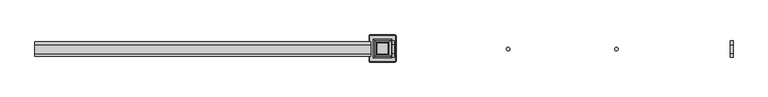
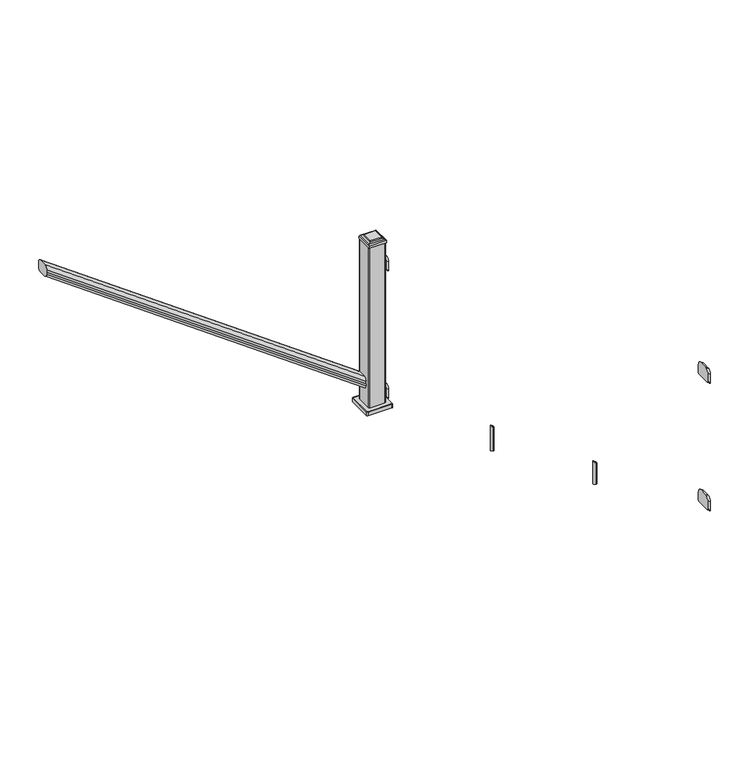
"""IFC4 building model written with IfcOpenShell, lengths in millimetres: railing geometry, NewTechWood - Westminister Gray."""

from ifc_helpers import new_model, si_unit, point, frame, frame_2d, origin, place, context, project, spatial, polyline, circle_curve, ellipse_curve, trimmed, segment, composite_curve, outline, extrude, faceted_brep, source, transform, mapped, element, save
from ifc_brep_helpers import plane_surface, cylinder_surface, revolved_surface, advanced_brep


def railing_da19b3df(model_context):
    return source(origin(), model_context, "Body", "SolidModel", [
        advanced_brep(
        [(-13507.1266255, 7760.3442795, 1712.3341733), (-13507.1266255, 7804.7090559, 1712.3341733), (-13507.1266255, 7821.448215, 1732.9511921), (-13507.1266255, 7821.448215, 1744.7413637), (-13507.1266255, 7821.9367338, 1761.4764927), (-13507.1266255, 7806.3681285, 1780.6517825), (-13507.1266255, 7758.6852069, 1780.6517825), (-13507.1266255, 7743.1166016, 1761.4764927), (-13507.1266255, 7743.6051203, 1744.7413637), (-13507.1266255, 7743.6051203, 1732.9511921), (-15306.1266255, 7804.7090559, 3005.8590513), (-15306.1266255, 7760.3442795, 3005.8590513), (-15306.1266255, 7743.6051203, 3026.4760701), (-15306.1266255, 7743.6051203, 3038.2662417), (-15306.1266255, 7743.1166016, 3055.0013707), (-15306.1266255, 7758.6852069, 3074.1766606), (-15306.1266255, 7806.3681285, 3074.1766606), (-15306.1266255, 7821.9367338, 3055.0013707), (-15306.1266255, 7821.448215, 3038.2662417), (-15306.1266255, 7821.448215, 3026.4760701)],
        [
            (0, 1),
            (1, 2, ellipse_curve(frame((-13507.1266255, 7804.7090559, 1732.9511921), z_axis=(1.0, 0.0, 0.0), x_axis=(0.0, 0.0, -1.0)), 20.6170188, 16.7391591)),
            (2, 3),
            (3, 4, ellipse_curve(frame((-13507.1266255, 7834.3611716, 1752.5479207), z_axis=(-1.0, 0.0, 0.0), x_axis=(0.0, 0.0, 1.0)), 17.7170259, 14.3846265)),
            (4, 5, ellipse_curve(frame((-13507.1266255, 7806.3681285, 1761.4764927), z_axis=(1.0, 0.0, 0.0), x_axis=(0.0, 0.0, -1.0)), 19.1752899, 15.5686053)),
            (5, 6),
            (6, 7, ellipse_curve(frame((-13507.1266255, 7758.6852069, 1761.4764927), z_axis=(1.0, 0.0, 0.0), x_axis=(0.0, 0.0, -1.0)), 19.1752899, 15.5686053)),
            (7, 8, ellipse_curve(frame((-13507.1266255, 7730.6921638, 1752.5479207), z_axis=(-1.0, 0.0, 0.0), x_axis=(0.0, 0.0, 1.0)), 17.7170259, 14.3846265)),
            (8, 9),
            (9, 0, ellipse_curve(frame((-13507.1266255, 7760.3442795, 1732.9511921), z_axis=(1.0, 0.0, 0.0), x_axis=(0.0, 0.0, -1.0)), 20.6170188, 16.7391591)),
            (10, 11),
            (11, 12, ellipse_curve(frame((-15306.1266255, 7760.3442795, 3026.4760701), z_axis=(-1.0, 0.0, 0.0), x_axis=(0.0, 0.0, -1.0)), 20.6170188, 16.7391591)),
            (12, 13),
            (13, 14, ellipse_curve(frame((-15306.1266255, 7730.6921638, 3046.0727988), z_axis=(1.0, 0.0, 0.0), x_axis=(0.0, 0.0, 1.0)), 17.7170259, 14.3846265)),
            (14, 15, ellipse_curve(frame((-15306.1266255, 7758.6852069, 3055.0013707), z_axis=(-1.0, 0.0, 0.0), x_axis=(0.0, 0.0, -1.0)), 19.1752899, 15.5686053)),
            (15, 16),
            (16, 17, ellipse_curve(frame((-15306.1266255, 7806.3681285, 3055.0013707), z_axis=(-1.0, 0.0, 0.0), x_axis=(0.0, 0.0, -1.0)), 19.1752899, 15.5686053)),
            (17, 18, ellipse_curve(frame((-15306.1266255, 7834.3611716, 3046.0727988), z_axis=(1.0, 0.0, 0.0), x_axis=(0.0, 0.0, 1.0)), 17.7170259, 14.3846265)),
            (18, 19),
            (19, 10, ellipse_curve(frame((-15306.1266255, 7804.7090559, 3026.4760701), z_axis=(-1.0, 0.0, 0.0), x_axis=(0.0, 0.0, -1.0)), 20.6170188, 16.7391591)),
            (0, 11),
            (10, 1),
            (19, 2),
            (18, 3),
            (17, 4),
            (16, 5),
            (15, 6),
            (14, 7),
            (13, 8),
            (12, 9),
        ],
        [
            plane_surface(frame((-13507.1266255, 7656.171935, 2628.6593724), z_axis=(1.0, 0.0, 0.0), x_axis=(0.0, 1.0, 0.0))),
            plane_surface(frame((-15306.1266255, 7656.171935, 2990.7512981), z_axis=(-1.0, 0.0, 0.0), x_axis=(0.0, 1.0, 0.0))),
            plane_surface(frame((-13482.6073247, 7760.3442795, 1694.704198), z_axis=(-0.5837829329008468, 0.0, -0.8119097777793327), x_axis=(-0.8119097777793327, 0.0, 0.5837829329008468))),
            cylinder_surface(frame((-13472.8352893, 7804.7090559, 1708.294885), z_axis=(0.8119097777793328, 0.0, -0.5837829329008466), x_axis=(-0.5837829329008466, 0.0, -0.8119097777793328)), 16.7391591),
            plane_surface(frame((-13472.8352893, 7821.448215, 1708.294885), z_axis=(0.0, 1.0000000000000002, 0.0), x_axis=(-0.8119097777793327, 0.0, 0.5837829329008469))),
            revolved_surface(polyline([(-15322.921624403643, 7834.3611716, 3040.431786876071), (-13507.126625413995, 7834.3611716, 1734.8308949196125)]), (-13463.54685, 7834.3611716, 1721.2129993), (-0.8119097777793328, 0.0, 0.5837829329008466)),
            cylinder_surface(frame((-13459.3148938, 7806.3681285, 1727.0986914), z_axis=(0.8119097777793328, 0.0, -0.5837829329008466), x_axis=(-0.5837829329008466, 0.0, -0.8119097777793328)), 15.5686053),
            plane_surface(frame((-13450.2262077, 7806.3681285, 1739.7389943), z_axis=(0.5837829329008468, 0.0, 0.8119097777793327), x_axis=(-0.8119097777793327, 0.0, 0.5837829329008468))),
            cylinder_surface(frame((-13459.3148938, 7758.6852069, 1727.0986914), z_axis=(0.8119097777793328, 0.0, -0.5837829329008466), x_axis=(-0.5837829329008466, 0.0, -0.8119097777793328)), 15.5686053),
            revolved_surface(polyline([(-15322.921624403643, 7730.6921638, 3040.431786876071), (-13507.126625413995, 7730.6921638, 1734.8308949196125)]), (-13463.54685, 7730.6921638, 1721.2129993), (-0.8119097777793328, 0.0, 0.5837829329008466)),
            plane_surface(frame((-13467.2469947, 7743.6051203, 1716.0669365), z_axis=(0.0, -1.0, 0.0), x_axis=(-0.8119097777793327, 0.0, 0.5837829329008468))),
            cylinder_surface(frame((-13472.8352893, 7760.3442795, 1708.294885), z_axis=(0.8119097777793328, 0.0, -0.5837829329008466), x_axis=(-0.5837829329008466, 0.0, -0.8119097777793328)), 16.7391591),
        ],
        [
            (0, [[1, 2, 3, 4, 5, 6, 7, 8, 9, 10]]),
            (1, [[11, 12, 13, 14, 15, 16, 17, 18, 19, 20]]),
            (2, [[21, -11, 22, -1]]),
            (3, [[-22, -20, 23, -2]]),
            (4, [[-23, -19, 24, -3]]),
            (5, [[-24, -18, 25, -4]]),
            (6, [[-25, -17, 26, -5]]),
            (7, [[-26, -16, 27, -6]]),
            (8, [[-27, -15, 28, -7]]),
            (9, [[-28, -14, 29, -8]]),
            (10, [[-29, -13, 30, -9]]),
            (11, [[-21, -10, -30, -12]]),
        ],
    ),
        advanced_brep(
        [(-13512.2392817, 7856.3863921, 1596.5), (-13515.3988491, 7853.2268247, 1596.5), (-13515.3988491, 7718.5468247, 1596.5), (-13512.2392817, 7715.3872573, 1596.5), (-13377.5592817, 7715.3872573, 1596.5), (-13374.3997143, 7718.5468247, 1596.5), (-13374.3997143, 7853.2268247, 1596.5), (-13377.5592817, 7856.3863921, 1596.5), (-13372.3992817, 7718.5468247, 1574.0), (-13377.5592817, 7713.3868247, 1574.0), (-13512.2392817, 7713.3868247, 1574.0), (-13517.3992817, 7718.5468247, 1574.0), (-13517.3992817, 7853.2268247, 1574.0), (-13512.2392817, 7858.3868247, 1574.0), (-13377.5592817, 7858.3868247, 1574.0), (-13372.3992817, 7853.2268247, 1574.0), (-13372.3992817, 7853.2268247, 1594.4995674), (-13372.3992817, 7718.5468247, 1594.4995674), (-13377.5592817, 7858.3868247, 1594.499569), (-13512.2392817, 7858.3868247, 1594.499569), (-13517.3992817, 7853.2268247, 1594.4995691), (-13517.3992817, 7718.5468247, 1594.4995674), (-13512.2392817, 7713.3868247, 1594.4995692), (-13377.5592817, 7713.3868247, 1594.4995674)],
        [
            (0, 1, circle_curve(frame((-13512.2392817, 7853.2268247, 1596.5), z_axis=(0.0, 0.0, 1.0), x_axis=(0.0, 1.0, 0.0)), 3.1595674)),
            (1, 2),
            (2, 3, circle_curve(frame((-13512.2392817, 7718.5468247, 1596.5), z_axis=(0.0, 0.0, 1.0), x_axis=(-1.0, 0.0, 0.0)), 3.1595674)),
            (3, 4),
            (4, 5, circle_curve(frame((-13377.5592817, 7718.5468247, 1596.5), z_axis=(0.0, 0.0, 1.0), x_axis=(0.0, -1.0, 0.0)), 3.1595674)),
            (5, 6),
            (6, 7, circle_curve(frame((-13377.5592817, 7853.2268247, 1596.5), z_axis=(0.0, 0.0, 1.0), x_axis=(1.0, 0.0, 0.0)), 3.1595674)),
            (7, 0),
            (8, 9, circle_curve(frame((-13377.5592817, 7718.5468247, 1574.0), z_axis=(0.0, 0.0, -1.0), x_axis=(0.0, -1.0, 0.0)), 5.16)),
            (9, 10),
            (10, 11, circle_curve(frame((-13512.2392817, 7718.5468247, 1574.0), z_axis=(0.0, 0.0, -1.0), x_axis=(0.0, -1.0, 0.0)), 5.16)),
            (11, 12),
            (12, 13, circle_curve(frame((-13512.2392817, 7853.2268247, 1574.0), z_axis=(0.0, 0.0, -1.0), x_axis=(0.0, -1.0, 0.0)), 5.16)),
            (13, 14),
            (14, 15, circle_curve(frame((-13377.5592817, 7853.2268247, 1574.0), z_axis=(0.0, 0.0, -1.0), x_axis=(0.0, -1.0, 0.0)), 5.16)),
            (15, 8),
            (15, 16),
            (16, 17),
            (17, 8),
            (14, 18),
            (18, 16, circle_curve(frame((-13377.5592817, 7853.2268247, 1594.4995674), z_axis=(0.0, 0.0, -1.0), x_axis=(0.0, -1.0, 0.0)), 5.16)),
            (13, 19),
            (19, 18),
            (12, 20),
            (20, 19, circle_curve(frame((-13512.2392817, 7853.2268247, 1594.4995674), z_axis=(0.0, 0.0, -1.0), x_axis=(0.0, -1.0, 0.0)), 5.16)),
            (11, 21),
            (21, 20),
            (10, 22),
            (22, 21, circle_curve(frame((-13512.2392817, 7718.5468247, 1594.4995674), z_axis=(0.0, 0.0, -1.0), x_axis=(0.0, -1.0, 0.0)), 5.16)),
            (9, 23),
            (23, 22),
            (17, 23, circle_curve(frame((-13377.5592817, 7718.5468247, 1594.4995674), z_axis=(0.0, 0.0, -1.0), x_axis=(0.0, -1.0, 0.0)), 5.16)),
            (20, 1, circle_curve(frame((-13515.3988491, 7853.2268247, 1594.4995674), z_axis=(0.0, 1.0, 0.0), x_axis=(1.0, 0.0, 0.0)), 2.0004326)),
            (0, 19, circle_curve(frame((-13512.2392817, 7856.3863921, 1594.4995674), z_axis=(-1.0, 0.0, 0.0), x_axis=(0.0, -1.0, 0.0)), 2.0004326)),
            (21, 2, circle_curve(frame((-13515.3988491, 7718.5468247, 1594.4995674), z_axis=(0.0, 1.0, 0.0), x_axis=(1.0, 0.0, 0.0)), 2.0004326)),
            (22, 3, circle_curve(frame((-13512.2392817, 7715.3872573, 1594.4995674), z_axis=(-1.0, 0.0, 0.0), x_axis=(0.0, 1.0, 0.0)), 2.0004326)),
            (23, 4, circle_curve(frame((-13377.5592817, 7715.3872573, 1594.4995674), z_axis=(-1.0, 0.0, 0.0), x_axis=(0.0, 1.0, 0.0)), 2.0004326)),
            (17, 5, circle_curve(frame((-13374.3997143, 7718.5468247, 1594.4995674), z_axis=(0.0, -1.0, 0.0), x_axis=(-1.0, 0.0, 0.0)), 2.0004326)),
            (16, 6, circle_curve(frame((-13374.3997143, 7853.2268247, 1594.4995674), z_axis=(0.0, -1.0, 0.0), x_axis=(-1.0, 0.0, 0.0)), 2.0004326)),
            (18, 7, circle_curve(frame((-13377.5592817, 7856.3863921, 1594.4995674), z_axis=(1.0, 0.0, 0.0), x_axis=(0.0, -1.0, 0.0)), 2.0004326)),
        ],
        [
            plane_surface(frame((-13372.3992817, 7745.3228185, 1596.5), z_axis=(0.0, 0.0, 1.0), x_axis=(0.0, 1.0, 0.0))),
            plane_surface(frame((-13372.3992817, 7745.3228185, 1574.0), z_axis=(0.0, 0.0, -1.0), x_axis=(0.0, -1.0, 0.0))),
            plane_surface(frame((-13372.3992817, 7718.5468247, 1596.5), z_axis=(1.0, 0.0, 0.0), x_axis=(0.0, 0.0, -1.0))),
            cylinder_surface(frame((-13377.5592817, 7853.2268247, 1574.0), z_axis=(0.0, 0.0, 1.0), x_axis=(0.0, -1.0, 0.0)), 5.16),
            plane_surface(frame((-13377.5592817, 7858.3868247, 1596.5), z_axis=(0.0, 1.0, 0.0), x_axis=(0.0, 0.0, -1.0))),
            cylinder_surface(frame((-13512.2392817, 7853.2268247, 1574.0), z_axis=(0.0, 0.0, 1.0), x_axis=(0.0, -1.0, 0.0)), 5.16),
            plane_surface(frame((-13517.3992817, 7853.2268247, 1596.5), z_axis=(-1.0, 0.0, 0.0), x_axis=(0.0, 0.0, -1.0))),
            cylinder_surface(frame((-13512.2392817, 7718.5468247, 1574.0), z_axis=(0.0, 0.0, 1.0), x_axis=(0.0, -1.0, 0.0)), 5.16),
            plane_surface(frame((-13512.2392817, 7713.3868247, 1596.5), z_axis=(0.0, -1.0, 0.0), x_axis=(0.0, 0.0, -1.0))),
            cylinder_surface(frame((-13377.5592817, 7718.5468247, 1574.0), z_axis=(0.0, 0.0, 1.0), x_axis=(0.0, -1.0, 0.0)), 5.16),
            revolved_surface(trimmed(ellipse_curve(frame((-13512.2392817, 7856.3863921, 1594.4995674), z_axis=(1.0, 0.0, 0.0), x_axis=(0.0, -1.0, 0.0)), 2.0004326, 2.0004326), [point((-13512.2392817, 7858.3868247, 1594.4995674))], [point((-13512.2392817, 7856.3863921, 1596.5))], True, "CARTESIAN"), (-13512.2392817, 7853.2268247, 1596.5), (0.0, 0.0, 1.0)),
            cylinder_surface(frame((-13515.3988491, 7853.2268247, 1594.4995674), z_axis=(0.0, -1.0, 0.0), x_axis=(1.0, 0.0, 0.0)), 2.0004326),
            revolved_surface(trimmed(ellipse_curve(frame((-13515.3988491, 7718.5468247, 1594.4995674), z_axis=(0.0, 1.0, 0.0), x_axis=(1.0, 0.0, 0.0)), 2.0004326, 2.0004326), [point((-13517.3992817, 7718.5468247, 1594.4995674))], [point((-13515.3988491, 7718.5468247, 1596.5))], True, "CARTESIAN"), (-13512.2392817, 7718.5468247, 1596.5), (0.0, 0.0, 1.0)),
            cylinder_surface(frame((-13512.2392817, 7715.3872573, 1594.4995674), z_axis=(1.0, 0.0, 0.0), x_axis=(0.0, 1.0, 0.0)), 2.0004326),
            revolved_surface(trimmed(ellipse_curve(frame((-13377.5592817, 7715.3872573, 1594.4995674), z_axis=(-1.0, 0.0, 0.0), x_axis=(0.0, 1.0, 0.0)), 2.0004326, 2.0004326), [point((-13377.5592817, 7713.3868247, 1594.4995674))], [point((-13377.5592817, 7715.3872573, 1596.5))], True, "CARTESIAN"), (-13377.5592817, 7718.5468247, 1596.5), (0.0, 0.0, 1.0)),
            cylinder_surface(frame((-13374.3997143, 7718.5468247, 1594.4995674), z_axis=(0.0, 1.0, 0.0), x_axis=(-1.0, 0.0, 0.0)), 2.0004326),
            revolved_surface(trimmed(ellipse_curve(frame((-13374.3997143, 7853.2268247, 1594.4995674), z_axis=(0.0, -1.0, 0.0), x_axis=(-1.0, 0.0, 0.0)), 2.0004326, 2.0004326), [point((-13372.3992817, 7853.2268247, 1594.4995674))], [point((-13374.3997143, 7853.2268247, 1596.5))], True, "CARTESIAN"), (-13377.5592817, 7853.2268247, 1596.5), (0.0, 0.0, 1.0)),
            cylinder_surface(frame((-13377.5592817, 7856.3863921, 1594.4995674), z_axis=(-1.0, 0.0, 0.0), x_axis=(0.0, -1.0, 0.0)), 2.0004326),
        ],
        [
            (0, [[1, 2, 3, 4, 5, 6, 7, 8]]),
            (1, [[9, 10, 11, 12, 13, 14, 15, 16]]),
            (2, [[-16, 17, 18, 19]]),
            (3, [[-15, 20, 21, -17]]),
            (4, [[-14, 22, 23, -20]]),
            (5, [[-13, 24, 25, -22]]),
            (6, [[-12, 26, 27, -24]]),
            (7, [[-11, 28, 29, -26]]),
            (8, [[-10, 30, 31, -28]]),
            (9, [[-9, -19, 32, -30]]),
            (10, [[33, -1, 34, -25]]),
            (11, [[-33, -27, 35, -2]]),
            (12, [[-35, -29, 36, -3]]),
            (13, [[-36, -31, 37, -4]]),
            (14, [[-37, -32, 38, -5]]),
            (15, [[-38, -18, 39, -6]]),
            (16, [[-39, -21, 40, -7]]),
            (17, [[-34, -8, -40, -23]]),
        ],
    ),
        faceted_brep([(-13493.9492817, 7834.9368247, 2564.769699), (-13493.9492817, 7834.9368247, 2550.139699), (-13493.9492817, 7736.8368247, 2550.139699), (-13493.9492817, 7736.8368247, 2564.769699), (-13489.9166056, 7830.9041486, 2570.0825536), (-13489.9166056, 7740.8695008, 2570.0825536), (-13480.691498, 7821.6790409, 2574.5958992), (-13480.691498, 7750.0946084, 2574.5958992), (-13476.1947306, 7817.1822735, 2578.4), (-13476.1947306, 7754.5913758, 2578.4), (-13395.8492817, 7736.8368247, 2550.139699), (-13395.8492817, 7736.8368247, 2564.769699), (-13399.8819578, 7740.8695008, 2570.0825536), (-13409.1070655, 7750.0946084, 2574.5958992), (-13413.6038329, 7754.5913758, 2578.4), (-13395.8492817, 7834.9368247, 2550.139699), (-13395.8492817, 7834.9368247, 2564.769699), (-13399.8819578, 7830.9041486, 2570.0825536), (-13409.1070655, 7821.6790409, 2574.5958992), (-13413.6038329, 7817.1822735, 2578.4)], [[[0, 1, 2, 3]], [[4, 0, 3, 5]], [[6, 4, 5, 7]], [[8, 6, 7, 9]], [[3, 2, 10, 11]], [[5, 3, 11, 12]], [[7, 5, 12, 13]], [[9, 7, 13, 14]], [[11, 10, 15, 16]], [[12, 11, 16, 17]], [[13, 12, 17, 18]], [[14, 13, 18, 19]], [[16, 15, 1, 0]], [[17, 16, 0, 4]], [[18, 17, 4, 6]], [[19, 18, 6, 8]], [[9, 14, 19, 8]], [[1, 15, 10, 2]]]),
        extrude(outline(composite_curve([segment(trimmed(circle_curve(frame_2d((-13401.3092817, 7829.4768247)), 3.61), [point((-13401.3092817, 7833.0868247))], [point((-13397.6992817, 7829.4768247))], False, "CARTESIAN"), True, "CONTINUOUS"), segment(polyline([(-13397.6992817, 7829.4768247), (-13397.6992817, 7742.2968247)]), True, "CONTINUOUS"), segment(trimmed(circle_curve(frame_2d((-13401.3092817, 7742.2968247)), 3.61), [point((-13397.6992817, 7742.2968247))], [point((-13401.3092817, 7738.6868247))], False, "CARTESIAN"), True, "CONTINUOUS"), segment(polyline([(-13401.3092817, 7738.6868247), (-13488.4892817, 7738.6868247)]), True, "CONTINUOUS"), segment(trimmed(circle_curve(frame_2d((-13488.4892817, 7742.2968247)), 3.61), [point((-13488.4892817, 7738.6868247))], [point((-13492.0992817, 7742.2968247))], False, "CARTESIAN"), True, "CONTINUOUS"), segment(polyline([(-13492.0992817, 7742.2968247), (-13492.0992817, 7829.4768247)]), True, "CONTINUOUS"), segment(trimmed(circle_curve(frame_2d((-13488.4892817, 7829.4768247)), 3.61), [point((-13492.0992817, 7829.4768247))], [point((-13488.4892817, 7833.0868247))], False, "CARTESIAN"), True, "CONTINUOUS"), segment(polyline([(-13488.4892817, 7833.0868247), (-13401.3092817, 7833.0868247)]), True, "CONTINUOUS")], self_intersect=False)), frame((0.0, 0.0, 1596.5), z_axis=(0.0, 0.0, 1.0), x_axis=(1.0, 0.0, 0.0)), (0.0, 0.0, 1.0), 953.639699),
        advanced_brep(
        [(-11583.671938, 7738.1316677, 1138.0873262), (-11583.671938, 7757.8116677, 1162.3264727), (-11583.671938, 7807.2416677, 1162.3264727), (-11583.671938, 7826.9216677, 1138.0873262), (-11583.671938, 7826.9216677, 1087.0102224), (-11583.671938, 7823.3716677, 1082.6378154), (-11583.671938, 7741.6816677, 1082.6378154), (-11583.671938, 7738.1316677, 1087.0102224), (-11568.671938, 7757.8116677, 1151.5411068), (-11568.671938, 7738.1316677, 1127.3019604), (-11568.671938, 7738.1316677, 1076.2248566), (-11568.671938, 7741.6816677, 1071.8524496), (-11568.671938, 7823.3716677, 1071.8524496), (-11568.671938, 7826.9216677, 1076.2248566), (-11568.671938, 7826.9216677, 1127.3019604), (-11568.671938, 7807.2416677, 1151.5411068)],
        [
            (0, 1, ellipse_curve(frame((-11583.671938, 7757.8116677, 1138.0873262), z_axis=(-1.0, 0.0, 0.0), x_axis=(0.0, 0.0, -1.0)), 24.2391464, 19.68)),
            (1, 2),
            (2, 3, ellipse_curve(frame((-11583.671938, 7807.2416677, 1138.0873262), z_axis=(-1.0, 0.0, 0.0), x_axis=(0.0, 0.0, -1.0)), 24.2391464, 19.68)),
            (3, 4),
            (4, 5, ellipse_curve(frame((-11583.671938, 7823.3716677, 1087.0102224), z_axis=(-1.0, 0.0, 0.0), x_axis=(0.0, 0.0, -1.0)), 4.372407, 3.55)),
            (5, 6),
            (6, 7, ellipse_curve(frame((-11583.671938, 7741.6816677, 1087.0102224), z_axis=(-1.0, 0.0, 0.0), x_axis=(0.0, 0.0, -1.0)), 4.372407, 3.55)),
            (7, 0),
            (8, 9, ellipse_curve(frame((-11568.671938, 7757.8116677, 1127.3019604), z_axis=(1.0, 0.0, 0.0), x_axis=(0.0, 0.0, -1.0)), 24.2391464, 19.68)),
            (9, 10),
            (10, 11, ellipse_curve(frame((-11568.671938, 7741.6816677, 1076.2248566), z_axis=(1.0, 0.0, 0.0), x_axis=(0.0, 0.0, -1.0)), 4.372407, 3.55)),
            (11, 12),
            (12, 13, ellipse_curve(frame((-11568.671938, 7823.3716677, 1076.2248566), z_axis=(1.0, 0.0, 0.0), x_axis=(0.0, 0.0, -1.0)), 4.372407, 3.55)),
            (13, 14),
            (14, 15, ellipse_curve(frame((-11568.671938, 7807.2416677, 1127.3019604), z_axis=(1.0, 0.0, 0.0), x_axis=(0.0, 0.0, -1.0)), 24.2391464, 19.68)),
            (15, 8),
            (8, 1),
            (0, 9),
            (7, 10),
            (6, 11),
            (5, 12),
            (4, 13),
            (3, 14),
            (2, 15),
        ],
        [
            plane_surface(frame((-11583.671938, 7656.171935, 314.2155862), z_axis=(-1.0, 0.0, 0.0), x_axis=(0.0, 1.0, 0.0))),
            plane_surface(frame((-11568.671938, 7656.171935, 1296.44637), z_axis=(1.0, 0.0, 0.0), x_axis=(0.0, 1.0, 0.0))),
            cylinder_surface(frame((-11533.0846296, 7757.8116677, 1101.7138177), z_axis=(0.8119097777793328, 0.0, -0.5837829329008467), x_axis=(-0.5837829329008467, 0.0, -0.8119097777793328)), 19.68),
            plane_surface(frame((-11533.0846296, 7738.1316677, 1101.7138177), z_axis=(0.0, -1.0, 0.0), x_axis=(-0.8119097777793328, 0.0, 0.5837829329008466))),
            cylinder_surface(frame((-11557.2941078, 7741.6816677, 1068.0439192), z_axis=(0.8119097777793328, 0.0, -0.5837829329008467), x_axis=(-0.5837829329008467, 0.0, -0.8119097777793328)), 3.55),
            plane_surface(frame((-11559.3665372, 7741.6816677, 1065.1616395), z_axis=(-0.5837829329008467, 0.0, -0.8119097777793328), x_axis=(-0.8119097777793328, 0.0, 0.5837829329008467))),
            cylinder_surface(frame((-11557.2941078, 7823.3716677, 1068.0439192), z_axis=(0.8119097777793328, 0.0, -0.5837829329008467), x_axis=(-0.5837829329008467, 0.0, -0.8119097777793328)), 3.55),
            plane_surface(frame((-11557.2941078, 7826.9216677, 1068.0439192), z_axis=(0.0, 1.0, 0.0), x_axis=(-0.8119097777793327, 0.0, 0.5837829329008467))),
            cylinder_surface(frame((-11533.0846296, 7807.2416677, 1101.7138177), z_axis=(0.8119097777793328, 0.0, -0.5837829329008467), x_axis=(-0.5837829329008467, 0.0, -0.8119097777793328)), 19.68),
            plane_surface(frame((-11521.5957815, 7807.2416677, 1117.6922021), z_axis=(0.5837829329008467, 0.0, 0.8119097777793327), x_axis=(-0.8119097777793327, 0.0, 0.5837829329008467))),
        ],
        [
            (0, [[1, 2, 3, 4, 5, 6, 7, 8]]),
            (1, [[9, 10, 11, 12, 13, 14, 15, 16]]),
            (2, [[17, -1, 18, -9]]),
            (3, [[-18, -8, 19, -10]]),
            (4, [[-19, -7, 20, -11]]),
            (5, [[-20, -6, 21, -12]]),
            (6, [[-21, -5, 22, -13]]),
            (7, [[-22, -4, 23, -14]]),
            (8, [[-23, -3, 24, -15]]),
            (9, [[-17, -16, -24, -2]]),
        ],
    ),
        advanced_brep(
        [(-13382.671938, 7757.8116677, 2455.8513507), (-13382.671938, 7738.1316677, 2431.6122043), (-13382.671938, 7738.1316677, 2380.5351005), (-13382.671938, 7741.6816677, 2376.1626935), (-13382.671938, 7823.3716677, 2376.1626935), (-13382.671938, 7826.9216677, 2380.5351005), (-13382.671938, 7826.9216677, 2431.6122043), (-13382.671938, 7807.2416677, 2455.8513507), (-13397.671938, 7738.1316677, 2442.3975701), (-13397.671938, 7757.8116677, 2466.6367166), (-13397.671938, 7807.2416677, 2466.6367166), (-13397.671938, 7826.9216677, 2442.3975701), (-13397.671938, 7826.9216677, 2391.3204663), (-13397.671938, 7823.3716677, 2386.9480593), (-13397.671938, 7741.6816677, 2386.9480593), (-13397.671938, 7738.1316677, 2391.3204663)],
        [
            (0, 1, ellipse_curve(frame((-13382.671938, 7757.8116677, 2431.6122043), z_axis=(1.0, 0.0, 0.0), x_axis=(0.0, 0.0, -1.0)), 24.2391464, 19.68)),
            (1, 2),
            (2, 3, ellipse_curve(frame((-13382.671938, 7741.6816677, 2380.5351005), z_axis=(1.0, 0.0, 0.0), x_axis=(0.0, 0.0, -1.0)), 4.372407, 3.55)),
            (3, 4),
            (4, 5, ellipse_curve(frame((-13382.671938, 7823.3716677, 2380.5351005), z_axis=(1.0, 0.0, 0.0), x_axis=(0.0, 0.0, -1.0)), 4.372407, 3.55)),
            (5, 6),
            (6, 7, ellipse_curve(frame((-13382.671938, 7807.2416677, 2431.6122043), z_axis=(1.0, 0.0, 0.0), x_axis=(0.0, 0.0, -1.0)), 24.2391464, 19.68)),
            (7, 0),
            (8, 9, ellipse_curve(frame((-13397.671938, 7757.8116677, 2442.3975701), z_axis=(-1.0, 0.0, 0.0), x_axis=(0.0, 0.0, -1.0)), 24.2391464, 19.68)),
            (9, 10),
            (10, 11, ellipse_curve(frame((-13397.671938, 7807.2416677, 2442.3975701), z_axis=(-1.0, 0.0, 0.0), x_axis=(0.0, 0.0, -1.0)), 24.2391464, 19.68)),
            (11, 12),
            (12, 13, ellipse_curve(frame((-13397.671938, 7823.3716677, 2391.3204663), z_axis=(-1.0, 0.0, 0.0), x_axis=(0.0, 0.0, -1.0)), 4.372407, 3.55)),
            (13, 14),
            (14, 15, ellipse_curve(frame((-13397.671938, 7741.6816677, 2391.3204663), z_axis=(-1.0, 0.0, 0.0), x_axis=(0.0, 0.0, -1.0)), 4.372407, 3.55)),
            (15, 8),
            (0, 9),
            (8, 1),
            (15, 2),
            (14, 3),
            (13, 4),
            (12, 5),
            (11, 6),
            (10, 7),
        ],
        [
            plane_surface(frame((-13382.671938, 7656.171935, 2539.1734166), z_axis=(1.0, 0.0, 0.0), x_axis=(0.0, 1.0, 0.0))),
            plane_surface(frame((-13397.671938, 7656.171935, 1556.9426329), z_axis=(-1.0, 0.0, 0.0), x_axis=(0.0, 1.0, 0.0))),
            cylinder_surface(frame((-11533.0846296, 7757.8116677, 1101.7138177), z_axis=(0.8119097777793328, 0.0, -0.5837829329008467), x_axis=(-0.5837829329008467, 0.0, -0.8119097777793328)), 19.68),
            plane_surface(frame((-11533.0846296, 7738.1316677, 1101.7138177), z_axis=(0.0, -1.0, 0.0), x_axis=(-0.8119097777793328, 0.0, 0.5837829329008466))),
            cylinder_surface(frame((-11557.2941078, 7741.6816677, 1068.0439192), z_axis=(0.8119097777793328, 0.0, -0.5837829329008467), x_axis=(-0.5837829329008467, 0.0, -0.8119097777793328)), 3.55),
            plane_surface(frame((-11559.3665372, 7741.6816677, 1065.1616395), z_axis=(-0.5837829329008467, 0.0, -0.8119097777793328), x_axis=(-0.8119097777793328, 0.0, 0.5837829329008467))),
            cylinder_surface(frame((-11557.2941078, 7823.3716677, 1068.0439192), z_axis=(0.8119097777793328, 0.0, -0.5837829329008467), x_axis=(-0.5837829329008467, 0.0, -0.8119097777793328)), 3.55),
            plane_surface(frame((-11557.2941078, 7826.9216677, 1068.0439192), z_axis=(0.0, 1.0, 0.0), x_axis=(-0.8119097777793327, 0.0, 0.5837829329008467))),
            cylinder_surface(frame((-11533.0846296, 7807.2416677, 1101.7138177), z_axis=(0.8119097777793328, 0.0, -0.5837829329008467), x_axis=(-0.5837829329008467, 0.0, -0.8119097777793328)), 19.68),
            plane_surface(frame((-11521.5957815, 7807.2416677, 1117.6922021), z_axis=(0.5837829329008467, 0.0, 0.8119097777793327), x_axis=(-0.8119097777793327, 0.0, 0.5837829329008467))),
        ],
        [
            (0, [[1, 2, 3, 4, 5, 6, 7, 8]]),
            (1, [[9, 10, 11, 12, 13, 14, 15, 16]]),
            (2, [[17, -9, 18, -1]]),
            (3, [[-18, -16, 19, -2]]),
            (4, [[-19, -15, 20, -3]]),
            (5, [[-20, -14, 21, -4]]),
            (6, [[-21, -13, 22, -5]]),
            (7, [[-22, -12, 23, -6]]),
            (8, [[-23, -11, 24, -7]]),
            (9, [[-17, -8, -24, -10]]),
        ],
    ),
        advanced_brep(
        [(-11583.671938, 7757.8116677, 403.3264727), (-11583.671938, 7807.2416677, 403.3264727), (-11583.671938, 7826.9216677, 379.0873262), (-11583.671938, 7826.9216677, 328.0102224), (-11583.671938, 7823.3716677, 323.6378154), (-11583.671938, 7741.6816677, 323.6378154), (-11583.671938, 7738.1316677, 328.0102224), (-11583.671938, 7738.1316677, 379.0873262), (-11568.671938, 7807.2416677, 392.5411068), (-11568.671938, 7757.8116677, 392.5411068), (-11568.671938, 7738.1316677, 368.3019604), (-11568.671938, 7738.1316677, 317.2248566), (-11568.671938, 7741.6816677, 312.8524496), (-11568.671938, 7823.3716677, 312.8524496), (-11568.671938, 7826.9216677, 317.2248566), (-11568.671938, 7826.9216677, 368.3019604)],
        [
            (0, 1),
            (1, 2, ellipse_curve(frame((-11583.671938, 7807.2416677, 379.0873262), z_axis=(-1.0, 0.0, 0.0), x_axis=(0.0, 0.0, -1.0)), 24.2391464, 19.68)),
            (2, 3),
            (3, 4, ellipse_curve(frame((-11583.671938, 7823.3716677, 328.0102224), z_axis=(-1.0, 0.0, 0.0), x_axis=(0.0, 0.0, -1.0)), 4.372407, 3.55)),
            (4, 5),
            (5, 6, ellipse_curve(frame((-11583.671938, 7741.6816677, 328.0102224), z_axis=(-1.0, 0.0, 0.0), x_axis=(0.0, 0.0, -1.0)), 4.372407, 3.55)),
            (6, 7),
            (7, 0, ellipse_curve(frame((-11583.671938, 7757.8116677, 379.0873262), z_axis=(-1.0, 0.0, 0.0), x_axis=(0.0, 0.0, -1.0)), 24.2391464, 19.68)),
            (8, 9),
            (9, 10, ellipse_curve(frame((-11568.671938, 7757.8116677, 368.3019604), z_axis=(1.0, 0.0, 0.0), x_axis=(0.0, 0.0, -1.0)), 24.2391464, 19.68)),
            (10, 11),
            (11, 12, ellipse_curve(frame((-11568.671938, 7741.6816677, 317.2248566), z_axis=(1.0, 0.0, 0.0), x_axis=(0.0, 0.0, -1.0)), 4.372407, 3.55)),
            (12, 13),
            (13, 14, ellipse_curve(frame((-11568.671938, 7823.3716677, 317.2248566), z_axis=(1.0, 0.0, 0.0), x_axis=(0.0, 0.0, -1.0)), 4.372407, 3.55)),
            (14, 15),
            (15, 8, ellipse_curve(frame((-11568.671938, 7807.2416677, 368.3019604), z_axis=(1.0, 0.0, 0.0), x_axis=(0.0, 0.0, -1.0)), 24.2391464, 19.68)),
            (8, 1),
            (0, 9),
            (7, 10),
            (6, 11),
            (5, 12),
            (4, 13),
            (3, 14),
            (2, 15),
        ],
        [
            plane_surface(frame((-11583.671938, 7656.171935, 314.2155862), z_axis=(-1.0, 0.0, 0.0), x_axis=(0.0, 1.0, 0.0))),
            plane_surface(frame((-11568.671938, 7656.171935, 1296.44637), z_axis=(1.0, 0.0, 0.0), x_axis=(0.0, 1.0, 0.0))),
            plane_surface(frame((-11524.0767008, 7807.2416677, 360.4760436), z_axis=(0.5837829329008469, 0.0, 0.8119097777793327), x_axis=(-0.8119097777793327, 0.0, 0.5837829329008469))),
            cylinder_surface(frame((-11535.5655489, 7757.8116677, 344.4976592), z_axis=(0.8119097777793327, 0.0, -0.5837829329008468), x_axis=(-0.5837829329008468, 0.0, -0.8119097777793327)), 19.68),
            plane_surface(frame((-11535.5655489, 7738.1316677, 344.4976592), z_axis=(0.0, -1.0000000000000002, 0.0), x_axis=(-0.8119097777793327, 0.0, 0.5837829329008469))),
            cylinder_surface(frame((-11559.7750272, 7741.6816677, 310.8277607), z_axis=(0.8119097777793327, 0.0, -0.5837829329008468), x_axis=(-0.5837829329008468, 0.0, -0.8119097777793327)), 3.55),
            plane_surface(frame((-11561.8474566, 7741.6816677, 307.945481), z_axis=(-0.5837829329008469, 0.0, -0.8119097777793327), x_axis=(-0.8119097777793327, 0.0, 0.5837829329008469))),
            cylinder_surface(frame((-11559.7750272, 7823.3716677, 310.8277607), z_axis=(0.8119097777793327, 0.0, -0.5837829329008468), x_axis=(-0.5837829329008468, 0.0, -0.8119097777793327)), 3.55),
            plane_surface(frame((-11559.7750272, 7826.9216677, 310.8277607), z_axis=(0.0, 1.0000000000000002, 0.0), x_axis=(-0.8119097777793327, 0.0, 0.5837829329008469))),
            cylinder_surface(frame((-11535.5655489, 7807.2416677, 344.4976592), z_axis=(0.8119097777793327, 0.0, -0.5837829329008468), x_axis=(-0.5837829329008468, 0.0, -0.8119097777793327)), 19.68),
        ],
        [
            (0, [[1, 2, 3, 4, 5, 6, 7, 8]]),
            (1, [[9, 10, 11, 12, 13, 14, 15, 16]]),
            (2, [[17, -1, 18, -9]]),
            (3, [[-18, -8, 19, -10]]),
            (4, [[-19, -7, 20, -11]]),
            (5, [[-20, -6, 21, -12]]),
            (6, [[-21, -5, 22, -13]]),
            (7, [[-22, -4, 23, -14]]),
            (8, [[-23, -3, 24, -15]]),
            (9, [[-17, -16, -24, -2]]),
        ],
    ),
        advanced_brep(
        [(-13382.671938, 7807.2416677, 1696.8513507), (-13382.671938, 7757.8116677, 1696.8513507), (-13382.671938, 7738.1316677, 1672.6122043), (-13382.671938, 7738.1316677, 1621.5351005), (-13382.671938, 7741.6816677, 1617.1626935), (-13382.671938, 7823.3716677, 1617.1626935), (-13382.671938, 7826.9216677, 1621.5351005), (-13382.671938, 7826.9216677, 1672.6122043), (-13397.671938, 7757.8116677, 1707.6367166), (-13397.671938, 7807.2416677, 1707.6367166), (-13397.671938, 7826.9216677, 1683.3975701), (-13397.671938, 7826.9216677, 1632.3204663), (-13397.671938, 7823.3716677, 1627.9480593), (-13397.671938, 7741.6816677, 1627.9480593), (-13397.671938, 7738.1316677, 1632.3204663), (-13397.671938, 7738.1316677, 1683.3975701)],
        [
            (0, 1),
            (1, 2, ellipse_curve(frame((-13382.671938, 7757.8116677, 1672.6122043), z_axis=(1.0, 0.0, 0.0), x_axis=(0.0, 0.0, -1.0)), 24.2391464, 19.68)),
            (2, 3),
            (3, 4, ellipse_curve(frame((-13382.671938, 7741.6816677, 1621.5351005), z_axis=(1.0, 0.0, 0.0), x_axis=(0.0, 0.0, -1.0)), 4.372407, 3.55)),
            (4, 5),
            (5, 6, ellipse_curve(frame((-13382.671938, 7823.3716677, 1621.5351005), z_axis=(1.0, 0.0, 0.0), x_axis=(0.0, 0.0, -1.0)), 4.372407, 3.55)),
            (6, 7),
            (7, 0, ellipse_curve(frame((-13382.671938, 7807.2416677, 1672.6122043), z_axis=(1.0, 0.0, 0.0), x_axis=(0.0, 0.0, -1.0)), 24.2391464, 19.68)),
            (8, 9),
            (9, 10, ellipse_curve(frame((-13397.671938, 7807.2416677, 1683.3975701), z_axis=(-1.0, 0.0, 0.0), x_axis=(0.0, 0.0, -1.0)), 24.2391464, 19.68)),
            (10, 11),
            (11, 12, ellipse_curve(frame((-13397.671938, 7823.3716677, 1632.3204663), z_axis=(-1.0, 0.0, 0.0), x_axis=(0.0, 0.0, -1.0)), 4.372407, 3.55)),
            (12, 13),
            (13, 14, ellipse_curve(frame((-13397.671938, 7741.6816677, 1632.3204663), z_axis=(-1.0, 0.0, 0.0), x_axis=(0.0, 0.0, -1.0)), 4.372407, 3.55)),
            (14, 15),
            (15, 8, ellipse_curve(frame((-13397.671938, 7757.8116677, 1683.3975701), z_axis=(-1.0, 0.0, 0.0), x_axis=(0.0, 0.0, -1.0)), 24.2391464, 19.68)),
            (0, 9),
            (8, 1),
            (15, 2),
            (14, 3),
            (13, 4),
            (12, 5),
            (11, 6),
            (10, 7),
        ],
        [
            plane_surface(frame((-13382.671938, 7656.171935, 2539.1734166), z_axis=(1.0, 0.0, 0.0), x_axis=(0.0, 1.0, 0.0))),
            plane_surface(frame((-13397.671938, 7656.171935, 1556.9426329), z_axis=(-1.0, 0.0, 0.0), x_axis=(0.0, 1.0, 0.0))),
            plane_surface(frame((-11524.0767008, 7807.2416677, 360.4760436), z_axis=(0.5837829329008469, 0.0, 0.8119097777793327), x_axis=(-0.8119097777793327, 0.0, 0.5837829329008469))),
            cylinder_surface(frame((-11535.5655489, 7757.8116677, 344.4976592), z_axis=(0.8119097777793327, 0.0, -0.5837829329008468), x_axis=(-0.5837829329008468, 0.0, -0.8119097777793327)), 19.68),
            plane_surface(frame((-11535.5655489, 7738.1316677, 344.4976592), z_axis=(0.0, -1.0000000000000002, 0.0), x_axis=(-0.8119097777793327, 0.0, 0.5837829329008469))),
            cylinder_surface(frame((-11559.7750272, 7741.6816677, 310.8277607), z_axis=(0.8119097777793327, 0.0, -0.5837829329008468), x_axis=(-0.5837829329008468, 0.0, -0.8119097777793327)), 3.55),
            plane_surface(frame((-11561.8474566, 7741.6816677, 307.945481), z_axis=(-0.5837829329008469, 0.0, -0.8119097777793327), x_axis=(-0.8119097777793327, 0.0, 0.5837829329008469))),
            cylinder_surface(frame((-11559.7750272, 7823.3716677, 310.8277607), z_axis=(0.8119097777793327, 0.0, -0.5837829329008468), x_axis=(-0.5837829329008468, 0.0, -0.8119097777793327)), 3.55),
            plane_surface(frame((-11559.7750272, 7826.9216677, 310.8277607), z_axis=(0.0, 1.0000000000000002, 0.0), x_axis=(-0.8119097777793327, 0.0, 0.5837829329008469))),
            cylinder_surface(frame((-11535.5655489, 7807.2416677, 344.4976592), z_axis=(0.8119097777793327, 0.0, -0.5837829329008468), x_axis=(-0.5837829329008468, 0.0, -0.8119097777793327)), 19.68),
        ],
        [
            (0, [[1, 2, 3, 4, 5, 6, 7, 8]]),
            (1, [[9, 10, 11, 12, 13, 14, 15, 16]]),
            (2, [[17, -9, 18, -1]]),
            (3, [[-18, -16, 19, -2]]),
            (4, [[-19, -15, 20, -3]]),
            (5, [[-20, -14, 21, -4]]),
            (6, [[-21, -13, 22, -5]]),
            (7, [[-22, -12, 23, -6]]),
            (8, [[-23, -11, 24, -7]]),
            (9, [[-17, -8, -24, -10]]),
        ],
    ),
        advanced_brep(
        [(-12193.6719704, 7792.0266677, 795.4662869), (-12193.6719704, 7773.0266677, 795.4662869), (-12184.1719704, 7782.5266677, 788.6355552), (-12193.6719704, 7792.0266677, 668.761812), (-12193.6719704, 7773.0266677, 668.761812), (-12184.1719704, 7782.5266677, 668.761812)],
        [
            (0, 1, ellipse_curve(frame((-12193.6719704, 7782.5266677, 795.4662869), z_axis=(0.5837829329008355, 0.0, 0.8119097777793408), x_axis=(-0.8119097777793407, 0.0, 0.5837829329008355)), 11.7008075, 9.5)),
            (1, 2, ellipse_curve(frame((-12193.6719704, 7782.5266677, 795.4662869), z_axis=(0.5837829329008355, 0.0, 0.8119097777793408), x_axis=(-0.8119097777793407, 0.0, 0.5837829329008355)), 11.7008075, 9.5)),
            (2, 0, ellipse_curve(frame((-12193.6719704, 7782.5266677, 795.4662869), z_axis=(0.5837829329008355, 0.0, 0.8119097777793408), x_axis=(-0.8119097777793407, 0.0, 0.5837829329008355)), 11.7008075, 9.5)),
            (0, 3),
            (3, 4, circle_curve(frame((-12193.6719704, 7782.5266677, 668.761812), z_axis=(0.0, 0.0, 1.0), x_axis=(0.0, -1.0, 0.0)), 9.5)),
            (4, 1),
            (4, 5, circle_curve(frame((-12193.6719704, 7782.5266677, 668.761812), z_axis=(0.0, 0.0, 1.0), x_axis=(0.0, -1.0, 0.0)), 9.5)),
            (5, 3, circle_curve(frame((-12193.6719704, 7782.5266677, 668.761812), z_axis=(0.0, 0.0, 1.0), x_axis=(0.0, -1.0, 0.0)), 9.5)),
        ],
        [
            plane_surface(frame((-12782.1719055, 7632.5266677, 1218.6120939), z_axis=(0.5837829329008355, 0.0, 0.8119097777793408), x_axis=(0.0, 1.0, 0.0))),
            cylinder_surface(frame((-12193.6719704, 7782.5266677, -433.085344), z_axis=(0.0, 0.0, 1.0), x_axis=(0.0, -1.0, 0.0)), 9.5),
            plane_surface(frame((-12184.1719704, 7632.5266677, 668.761812), z_axis=(0.0, 0.0, -1.0), x_axis=(0.0, 1.0, 0.0))),
        ],
        [
            (0, [[1, 2, 3]]),
            (1, [[4, 5, 6, -1]]),
            (1, [[-4, -3, -2, -6, 7, 8]]),
            (2, [[-5, -8, -7]]),
        ],
    ),
        advanced_brep(
        [(-12772.6719055, 7792.0266677, 1211.7813622), (-12782.1719055, 7782.5266677, 1218.6120939), (-12772.6719055, 7773.0266677, 1211.7813622), (-12772.6719055, 7792.0266677, 1070.7101367), (-12782.1719055, 7782.5266677, 1070.7101367), (-12772.6719055, 7773.0266677, 1070.7101367)],
        [
            (0, 1, ellipse_curve(frame((-12772.6719055, 7782.5266677, 1211.7813622), z_axis=(0.5837829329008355, 0.0, 0.8119097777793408), x_axis=(-0.8119097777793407, 0.0, 0.5837829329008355)), 11.7008075, 9.5)),
            (1, 2, ellipse_curve(frame((-12772.6719055, 7782.5266677, 1211.7813622), z_axis=(0.5837829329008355, 0.0, 0.8119097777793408), x_axis=(-0.8119097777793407, 0.0, 0.5837829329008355)), 11.7008075, 9.5)),
            (2, 0, ellipse_curve(frame((-12772.6719055, 7782.5266677, 1211.7813622), z_axis=(0.5837829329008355, 0.0, 0.8119097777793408), x_axis=(-0.8119097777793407, 0.0, 0.5837829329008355)), 11.7008075, 9.5)),
            (0, 3),
            (3, 4, circle_curve(frame((-12772.6719055, 7782.5266677, 1070.7101367), z_axis=(0.0, 0.0, 1.0), x_axis=(0.0, -1.0, 0.0)), 9.5)),
            (4, 5, circle_curve(frame((-12772.6719055, 7782.5266677, 1070.7101367), z_axis=(0.0, 0.0, 1.0), x_axis=(0.0, -1.0, 0.0)), 9.5)),
            (5, 2),
            (5, 3, circle_curve(frame((-12772.6719055, 7782.5266677, 1070.7101367), z_axis=(0.0, 0.0, 1.0), x_axis=(0.0, -1.0, 0.0)), 9.5)),
        ],
        [
            plane_surface(frame((-12782.1719055, 7632.5266677, 1218.6120939), z_axis=(0.5837829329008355, 0.0, 0.8119097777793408), x_axis=(0.0, 1.0, 0.0))),
            cylinder_surface(frame((-12772.6719055, 7782.5266677, 882.4945831), z_axis=(0.0, 0.0, 1.0), x_axis=(0.0, -1.0, 0.0)), 9.5),
            plane_surface(frame((-12762.6719055, 7632.5266677, 1070.7101367), z_axis=(0.0, 0.0, -1.0), x_axis=(0.0, 1.0, 0.0))),
        ],
        [
            (0, [[1, 2, 3]]),
            (1, [[4, 5, 6, 7, -2, -1]]),
            (1, [[-4, -3, -7, 8]]),
            (2, [[-5, -8, -6]]),
        ],
    ),
    ])


if __name__ == "__main__":
    model = new_model("IFC4")
    model_context = context("Model", 3, world=origin())
    ifc_project = project(units=[si_unit("LENGTHUNIT", "METRE", prefix="MILLI")], contexts=[model_context])
    site = spatial("IfcSite", under=ifc_project)
    building = spatial("IfcBuilding", under=site)
    placement = place(None, origin())
    railing_shape = railing_da19b3df(model_context)
    element("IfcRailing", 1, ObjectType="NewTechWood - Westminister Gray", at=placement, inside=building, context=model_context, shape_type="MappedRepresentation", body=[
        mapped(railing_shape, transform((0.0, 0.0, 0.0), x_axis=(1.0, 0.0, 0.0), y_axis=(0.0, 1.0, 0.0), z_axis=(0.0, 0.0, 1.0))),
    ])
    save(model, "model.ifc")
